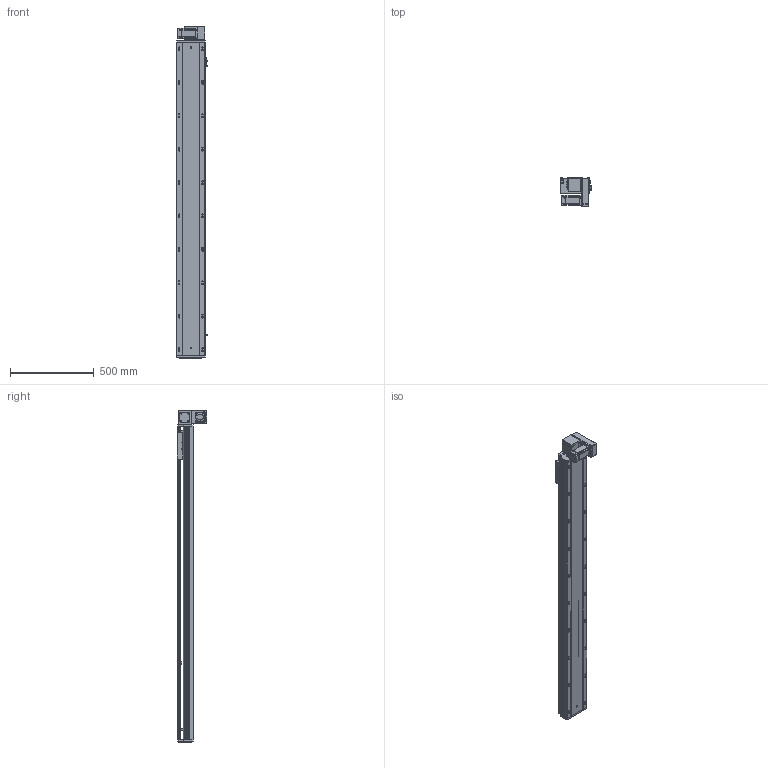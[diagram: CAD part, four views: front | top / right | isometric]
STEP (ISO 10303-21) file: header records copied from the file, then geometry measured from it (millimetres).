
FILE_DESCRIPTION (( 'STEP AP203' ), '1' );
FILE_NAME ('RY170-T-300-DR-P400W.SLDASM_1600.step', '2021-03-01T08:24:18', ( '盈信电脑' ), ( '东莞市道滘镇水果街19号' ), 'SwSTEP 2.0', 'SolidWorks 2012', '' );
FILE_SCHEMA (( 'CONFIG_CONTROL_DESIGN' ));
Length unit declared in the file: millimetre
Products named in the file (19): RY170-T-300-DR-P400W.SLDASM_1600; RY170-T-呴雄粣揤踡啣; 滅袉蝶18-10; 15; RY170-T肮祭湍揤踡輸2; RY120-T主同步轮轴承压盖; RY170-T蹟翐M4; RY170-T肮祭謫裔啣; RY170-T肮祭湍揤踡輸1; RY170肮祭謫萇儂欶; RY170同步轮电机安装板(400W); RY170翋肮祭謫釱; RY170肮祭謫ヶ裔啣; 覜茼ん672; RY170綴裔啣; RY170外置感应片(200共用）; RY170-T-300肮祭謫倰第裔啣-DR_1600; RY170肮祭湍臏賑輸; RY170-T-300肮祭謫倰第菁釱-DR_1600
Assembly tree (23 placements, depth 2):
  RY170-T-300-DR-P400W.SLDASM_1600
    RY170-T-300肮祭謫倰第菁釱-DR_1600
    RY170肮祭湍臏賑輸
    RY170-T-300肮祭謫倰第裔啣-DR_1600
    RY170綴裔啣
    覜茼ん672  x3
    RY170外置感应片(200共用）
    RY170肮祭謫ヶ裔啣
    RY170翋肮祭謫釱
    RY170同步轮电机安装板(400W)
    RY170肮祭謫萇儂欶
    RY170-T肮祭湍揤踡輸1  x2
    RY170-T肮祭湍揤踡輸2  x2
    RY120-T主同步轮轴承压盖
    RY170-T肮祭謫裔啣
    RY170-T蹟翐M4
    滅袉蝶18-10  x2
    RY170-T-呴雄粣揤踡啣
    15
Bounding box: 183.7 x 178 x 1988 mm (x, y, z)
Volume: 9419265.8 mm3; surface area: 3230408.3 mm2
Topology: 23 solids, 23 shells, 2918 faces, 8142 edges, 5203 vertices
Faces by surface type: cylinder 1338, plane 1270, cone 280, bspline 30
Entity records: 88101 total; most frequent: CARTESIAN_POINT 20034, ORIENTED_EDGE 13904, DIRECTION 13622, EDGE_CURVE 6952, AXIS2_PLACEMENT_3D 4821, VERTEX_POINT 4559, VECTOR 3980, LINE 3980
